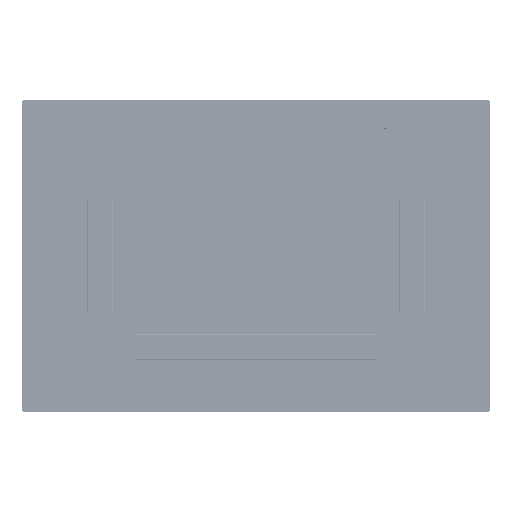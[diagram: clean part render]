
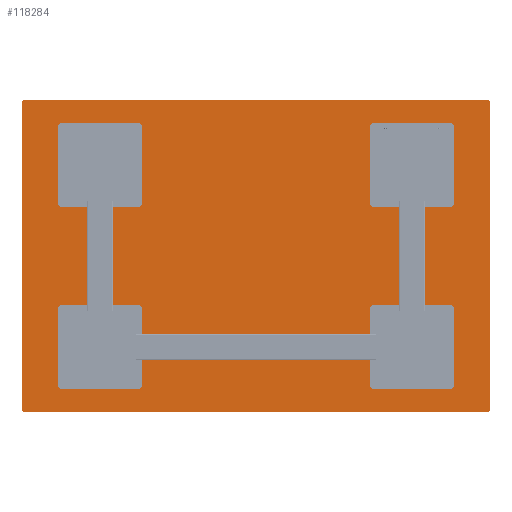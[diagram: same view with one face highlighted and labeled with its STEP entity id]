
A CAD part, front view. The second image highlights one B-rep face of the part: STEP entity #118284.
In plain terms, the highlighted planar face has unit normal (0, -1, 0).
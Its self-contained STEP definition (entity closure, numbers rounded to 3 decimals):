
#405 = EDGE_CURVE ( 'NONE', #129575, #149497, #121991, .T. ) ;
#1011 = ORIENTED_EDGE ( 'NONE', *, *, #13366, .F. ) ;
#1691 = CIRCLE ( 'NONE', #69674, 5. ) ;
#5685 = CARTESIAN_POINT ( 'NONE',  ( -445., 700., -300. ) ) ;
#6358 = LINE ( 'NONE', #5685, #83514 ) ;
#9367 = ORIENTED_EDGE ( 'NONE', *, *, #144836, .F. ) ;
#13366 = EDGE_CURVE ( 'NONE', #111333, #155935, #177033, .T. ) ;
#17421 = CARTESIAN_POINT ( 'NONE',  ( 450., 700., -295. ) ) ;
#17793 = DIRECTION ( 'NONE',  ( 0., 1., 0. ) ) ;
#19496 = CIRCLE ( 'NONE', #147886, 5. ) ;
#20345 = DIRECTION ( 'NONE',  ( -1., 0., 0. ) ) ;
#25174 = DIRECTION ( 'NONE',  ( -1., 0., 0. ) ) ;
#25717 = DIRECTION ( 'NONE',  ( 1., 0., 0. ) ) ;
#29608 = CARTESIAN_POINT ( 'NONE',  ( -445., 700., -300. ) ) ;
#32484 = VECTOR ( 'NONE', #146416, 1000. ) ;
#33319 = VERTEX_POINT ( 'NONE', #17421 ) ;
#42530 = CARTESIAN_POINT ( 'NONE',  ( 445., 700., 295. ) ) ;
#50491 = EDGE_CURVE ( 'NONE', #157396, #155175, #6358, .T. ) ;
#53042 = ORIENTED_EDGE ( 'NONE', *, *, #405, .F. ) ;
#57060 = DIRECTION ( 'NONE',  ( 1., 0., 0. ) ) ;
#60739 = DIRECTION ( 'NONE',  ( 0., 1., 0. ) ) ;
#61690 = FACE_OUTER_BOUND ( 'NONE', #149715, .T. ) ;
#63189 = CARTESIAN_POINT ( 'NONE',  ( -450., 700., 295. ) ) ;
#66142 = ORIENTED_EDGE ( 'NONE', *, *, #166173, .F. ) ;
#68277 = DIRECTION ( 'NONE',  ( 0., -1., 0. ) ) ;
#69674 = AXIS2_PLACEMENT_3D ( 'NONE', #42530, #143642, #57060 ) ;
#70057 = CARTESIAN_POINT ( 'NONE',  ( -445., 700., 300. ) ) ;
#75683 = CARTESIAN_POINT ( 'NONE',  ( 445., 700., -300. ) ) ;
#78464 = AXIS2_PLACEMENT_3D ( 'NONE', #104577, #17793, #119093 ) ;
#80609 = DIRECTION ( 'NONE',  ( 0., 1., 0. ) ) ;
#83514 = VECTOR ( 'NONE', #20345, 1000. ) ;
#94733 = ORIENTED_EDGE ( 'NONE', *, *, #142993, .F. ) ;
#96924 = DIRECTION ( 'NONE',  ( 0., 0., 1. ) ) ;
#97349 = CARTESIAN_POINT ( 'NONE',  ( 445., 700., -295. ) ) ;
#100063 = VERTEX_POINT ( 'NONE', #169284 ) ;
#100160 = AXIS2_PLACEMENT_3D ( 'NONE', #147281, #60739, #161863 ) ;
#104577 = CARTESIAN_POINT ( 'NONE',  ( -445., 700., 295. ) ) ;
#107014 = CIRCLE ( 'NONE', #78464, 5. ) ;
#111333 = VERTEX_POINT ( 'NONE', #70057 ) ;
#111902 = PLANE ( 'NONE',  #168252 ) ;
#118284 = ADVANCED_FACE ( 'NONE', ( #61690 ), #111902, .T. ) ;
#119093 = DIRECTION ( 'NONE',  ( -1., 0., 0. ) ) ;
#121991 = LINE ( 'NONE', #140424, #160474 ) ;
#124566 = ORIENTED_EDGE ( 'NONE', *, *, #184201, .F. ) ;
#128526 = ORIENTED_EDGE ( 'NONE', *, *, #131626, .F. ) ;
#129575 = VERTEX_POINT ( 'NONE', #170048 ) ;
#131626 = EDGE_CURVE ( 'NONE', #155935, #100063, #1691, .T. ) ;
#131891 = CARTESIAN_POINT ( 'NONE',  ( 450., 700., 295. ) ) ;
#138558 = VECTOR ( 'NONE', #25717, 1000. ) ;
#140424 = CARTESIAN_POINT ( 'NONE',  ( -450., 700., 295. ) ) ;
#142993 = EDGE_CURVE ( 'NONE', #155175, #129575, #186300, .T. ) ;
#143642 = DIRECTION ( 'NONE',  ( 0., 1., 0. ) ) ;
#144836 = EDGE_CURVE ( 'NONE', #149497, #111333, #107014, .T. ) ;
#146416 = DIRECTION ( 'NONE',  ( 0., 0., -1. ) ) ;
#147281 = CARTESIAN_POINT ( 'NONE',  ( -445., 700., -295. ) ) ;
#147854 = LINE ( 'NONE', #131891, #32484 ) ;
#147886 = AXIS2_PLACEMENT_3D ( 'NONE', #167165, #80609, #181707 ) ;
#149497 = VERTEX_POINT ( 'NONE', #63189 ) ;
#149715 = EDGE_LOOP ( 'NONE', ( #66142, #124566, #128526, #1011, #9367, #53042, #94733, #154433 ) ) ;
#154433 = ORIENTED_EDGE ( 'NONE', *, *, #50491, .F. ) ;
#155175 = VERTEX_POINT ( 'NONE', #29608 ) ;
#155352 = CARTESIAN_POINT ( 'NONE',  ( -445., 700., 300. ) ) ;
#155935 = VERTEX_POINT ( 'NONE', #184285 ) ;
#157396 = VERTEX_POINT ( 'NONE', #75683 ) ;
#160474 = VECTOR ( 'NONE', #96924, 1000. ) ;
#161863 = DIRECTION ( 'NONE',  ( -1., 0., 0. ) ) ;
#166173 = EDGE_CURVE ( 'NONE', #33319, #157396, #19496, .T. ) ;
#167165 = CARTESIAN_POINT ( 'NONE',  ( 445., 700., -295. ) ) ;
#168252 = AXIS2_PLACEMENT_3D ( 'NONE', #97349, #68277, #25174 ) ;
#169284 = CARTESIAN_POINT ( 'NONE',  ( 450., 700., 295. ) ) ;
#170048 = CARTESIAN_POINT ( 'NONE',  ( -450., 700., -295. ) ) ;
#177033 = LINE ( 'NONE', #155352, #138558 ) ;
#181707 = DIRECTION ( 'NONE',  ( -1., 0., 0. ) ) ;
#184201 = EDGE_CURVE ( 'NONE', #100063, #33319, #147854, .T. ) ;
#184285 = CARTESIAN_POINT ( 'NONE',  ( 445., 700., 300. ) ) ;
#186300 = CIRCLE ( 'NONE', #100160, 5. ) ;
